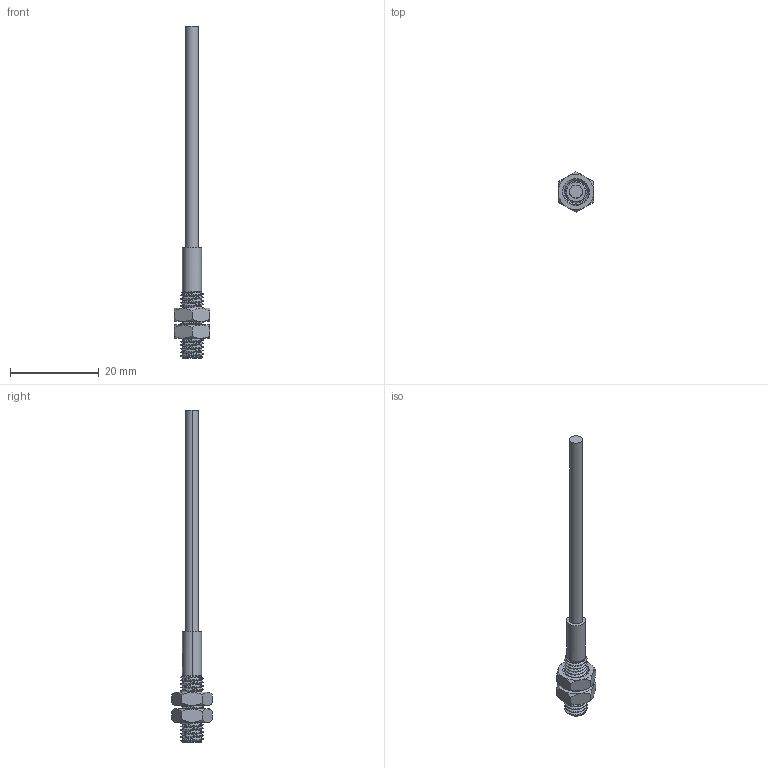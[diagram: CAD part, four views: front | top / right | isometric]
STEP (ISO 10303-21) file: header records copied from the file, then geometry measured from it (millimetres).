
FILE_DESCRIPTION (( 'STEP AP214' ), '1' );
FILE_NAME ('SN05-B 2025.9.1.STEP', '2025-09-01T07:36:57', ( 'Windows User' ), ( 'P R C' ), 'SwSTEP 2.0', 'SolidWorks 2023', '' );
FILE_SCHEMA (( 'AUTOMOTIVE_DESIGN' ));
Length unit declared in the file: millimetre
Products named in the file (3): SN05-B   2025.9.1; SN05壳体; M5×0.5-SW8×3螺母
Assembly tree (3 placements, depth 2):
  SN05-B   2025.9.1
    SN05壳体
    M5×0.5-SW8×3螺母  x2
Bounding box: 8.03 x 9.24 x 75 mm (x, y, z)
Volume: 903.4 mm3; surface area: 1390.2 mm2
Topology: 3 solids, 3 shells, 128 faces, 325 edges, 205 vertices
Faces by surface type: cylinder 56, cone 40, plane 23, bspline 9
Entity records: 6782 total; most frequent: CARTESIAN_POINT 4764, ORIENTED_EDGE 484, DIRECTION 328, EDGE_CURVE 242, VERTEX_POINT 155, AXIS2_PLACEMENT_3D 130, EDGE_LOOP 97, FACE_OUTER_BOUND 93
